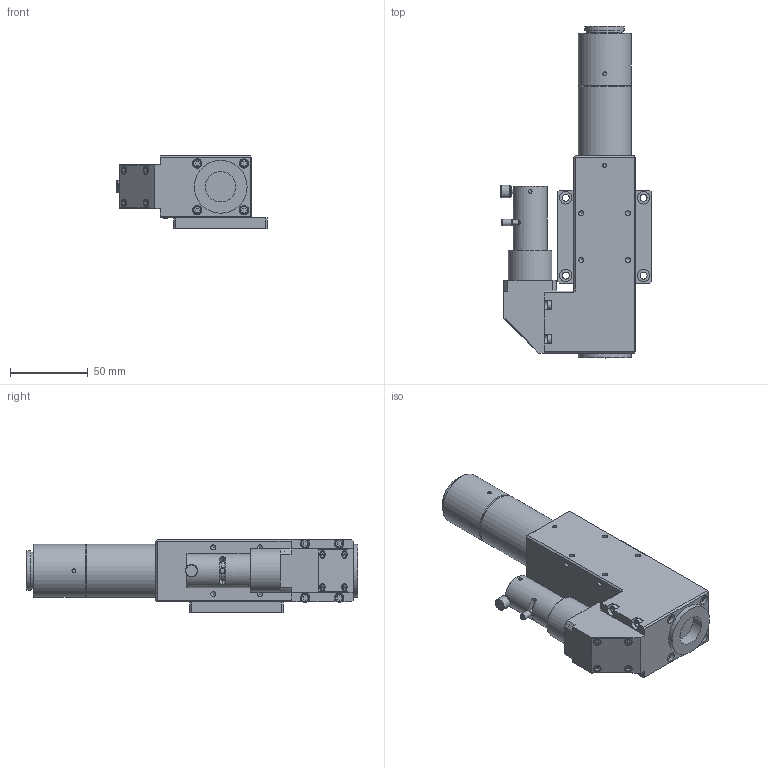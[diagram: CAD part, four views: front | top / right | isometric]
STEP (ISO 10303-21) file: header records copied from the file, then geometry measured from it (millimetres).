
FILE_DESCRIPTION((''),'2;1');
FILE_NAME('C:/Users/m.okamura/Desktop/OUCI-3(NIR).stp', '2021-03-09T07:23:40',(''), ('シグマ光機'), 'KCM Version 2.0.6753.6753', 'KeyCreator Pro', '');
FILE_SCHEMA(('AUTOMOTIVE_DESIGN'));
Length unit declared in the file: millimetre
Bounding box: 96.85 x 213.38 x 47.24 mm (x, y, z)
Volume: 382587 mm3; surface area: 55776.9 mm2
Topology: 2 solids, 6 shells, 528 faces, 1258 edges, 806 vertices
Faces by surface type: plane 352, cylinder 113, cone 63
Full cylindrical faces by diameter (mm): 1.7 x1, 2.4 x3, 2.5 x4, 3 x2, 3.2 x20, 4 x2, 4.5 x12, 5 x8, 5.5 x8, 6 x5, 6.5 x1, 7 x4, 8 x10, 14 x1, 19.614 x1, 22 x1, 23.8 x1, 25 x1, 25.294 x1, 25.4 x1, 26 x1, 28 x1, 34 x3
Entity records: 15179 total; most frequent: CARTESIAN_POINT 2928, DIRECTION 2509, ORIENTED_EDGE 2462, EDGE_CURVE 1231, VECTOR 845, LINE 845, AXIS2_PLACEMENT_3D 832, VERTEX_POINT 800
